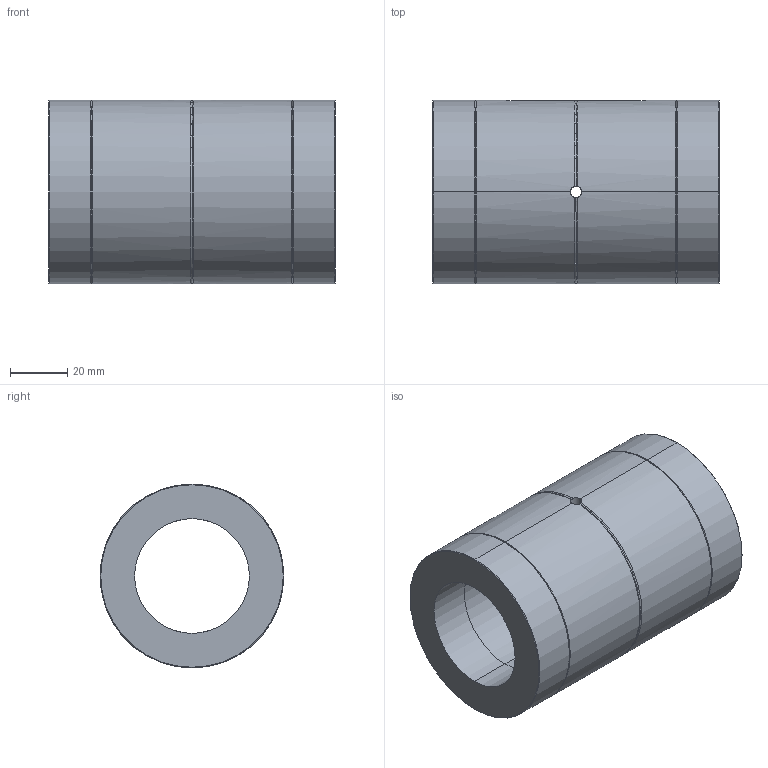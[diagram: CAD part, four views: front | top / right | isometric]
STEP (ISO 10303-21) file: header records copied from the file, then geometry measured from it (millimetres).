
FILE_DESCRIPTION (( 'STEP AP203' ), '1' );
FILE_NAME ('KLT040T4.STEP', '2023-08-11T07:20:33', ( 'Microsoft' ), ( 'Microsoft' ), 'SwSTEP 2.0', 'SolidWorks 2022', '' );
FILE_SCHEMA (( 'CONFIG_CONTROL_DESIGN' ));
Length unit declared in the file: millimetre
Products named in the file (4): 零件6^KLT040T4; KLT040T4; 零件7^KLT040T4; 零件4^KLT040T4
Assembly tree (3 placements, depth 2):
  KLT040T4
    零件4^KLT040T4
    零件6^KLT040T4
    零件7^KLT040T4
Bounding box: 100 x 64 x 64 mm (x, y, z)
Volume: 194631.8 mm3; surface area: 44936.9 mm2
Topology: 3 solids, 3 shells, 47 faces, 115 edges, 70 vertices
Faces by surface type: cylinder 20, cone 12, plane 9, torus 6
Entity records: 2064 total; most frequent: CARTESIAN_POINT 544, DIRECTION 242, ORIENTED_EDGE 230, EDGE_CURVE 115, AXIS2_PLACEMENT_3D 100, VERTEX_POINT 70, EDGE_LOOP 53, CIRCLE 47
